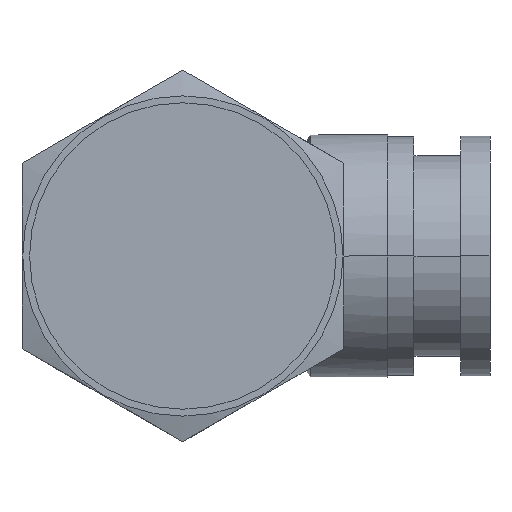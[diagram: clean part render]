
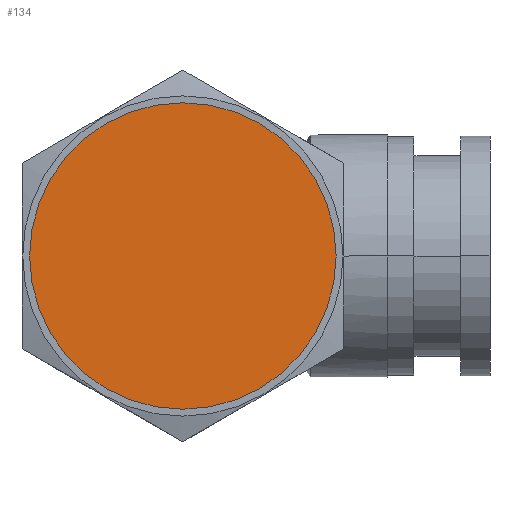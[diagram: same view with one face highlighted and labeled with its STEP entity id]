
A CAD part, front view. The second image highlights one B-rep face of the part: STEP entity #134.
In plain terms, the highlighted planar face has unit normal (0, -1, 0).
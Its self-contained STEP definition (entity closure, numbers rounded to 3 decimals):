
#134 = ADVANCED_FACE( '', ( #261 ), #262, .T. );
#261 = FACE_OUTER_BOUND( '', #388, .T. );
#262 = PLANE( '', #389 );
#388 = EDGE_LOOP( '', ( #853, #854 ) );
#389 = AXIS2_PLACEMENT_3D( '', #855, #856, #857 );
#853 = ORIENTED_EDGE( '', *, *, #861, .T. );
#854 = ORIENTED_EDGE( '', *, *, #1001, .T. );
#855 = CARTESIAN_POINT( '', ( -5.239, -6.4, 0. ) );
#856 = DIRECTION( '', ( 0., -1., 0. ) );
#857 = DIRECTION( '', ( -1., 0., 0. ) );
#861 = EDGE_CURVE( '', #1003, #1007, #1009, .T. );
#1001 = EDGE_CURVE( '', #1007, #1003, #1238, .T. );
#1003 = VERTEX_POINT( '', #1240 );
#1007 = VERTEX_POINT( '', #1245 );
#1009 = CIRCLE( '', #1248, 10.478 );
#1238 = CIRCLE( '', #1809, 10.478 );
#1240 = CARTESIAN_POINT( '', ( -10.478, -6.4, 0. ) );
#1245 = CARTESIAN_POINT( '', ( 10.478, -6.4, 0. ) );
#1248 = AXIS2_PLACEMENT_3D( '', #1815, #1816, #1817 );
#1809 = AXIS2_PLACEMENT_3D( '', #2033, #2034, #2035 );
#1815 = CARTESIAN_POINT( '', ( 0., -6.4, 0. ) );
#1816 = DIRECTION( '', ( 0., -1., 0. ) );
#1817 = DIRECTION( '', ( -1., 0., 0. ) );
#2033 = CARTESIAN_POINT( '', ( 0., -6.4, 0. ) );
#2034 = DIRECTION( '', ( 0., -1., 0. ) );
#2035 = DIRECTION( '', ( -1., 0., 0. ) );
